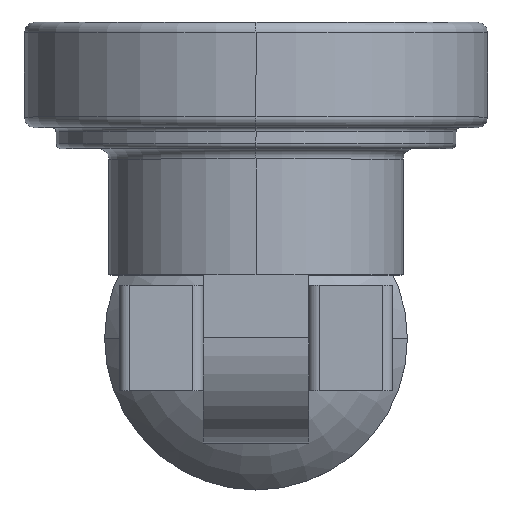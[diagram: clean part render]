
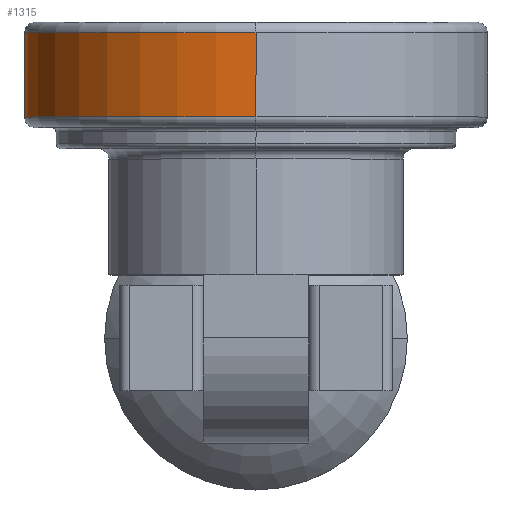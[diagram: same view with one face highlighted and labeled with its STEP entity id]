
A CAD part, top view. The second image highlights one B-rep face of the part: STEP entity #1315.
In plain terms, the highlighted cylindrical face has radius 11 mm (diameter 22 mm), a partial arc.
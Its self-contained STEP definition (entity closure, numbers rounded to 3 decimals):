
#501 = VERTEX_POINT( '', #1471 );
#725 = EDGE_CURVE( '', #1323, #501, #1714, .T. );
#799 = EDGE_CURVE( '', #959, #501, #1800, .T. );
#959 = VERTEX_POINT( '', #1979 );
#993 = VERTEX_POINT( '', #2016 );
#1109 = EDGE_CURVE( '', #959, #993, #2144, .T. );
#1253 = EDGE_CURVE( '', #993, #1323, #2302, .T. );
#1315 = ADVANCED_FACE( '', ( #2373 ), #2374, .T. );
#1323 = VERTEX_POINT( '', #2383 );
#1471 = CARTESIAN_POINT( '', ( 0., -4.5, 11. ) );
#1714 = LINE( '', #2868, #2869 );
#1800 = CIRCLE( '', #2977, 11. );
#1979 = CARTESIAN_POINT( '', ( 0., -4.5, -11. ) );
#2016 = CARTESIAN_POINT( '', ( 0., -0.5, -11. ) );
#2144 = LINE( '', #3424, #3425 );
#2302 = CIRCLE( '', #3644, 11. );
#2373 = FACE_OUTER_BOUND( '', #3728, .T. );
#2374 = CYLINDRICAL_SURFACE( '', #3729, 11. );
#2383 = CARTESIAN_POINT( '', ( 0., -0.5, 11. ) );
#2868 = CARTESIAN_POINT( '', ( 0., -2.5, 11. ) );
#2869 = VECTOR( '', #4196, 1. );
#2977 = AXIS2_PLACEMENT_3D( '', #4307, #4308, #4309 );
#3424 = CARTESIAN_POINT( '', ( 0., -2.5, -11. ) );
#3425 = VECTOR( '', #4741, 1. );
#3644 = AXIS2_PLACEMENT_3D( '', #4943, #4944, #4945 );
#3728 = EDGE_LOOP( '', ( #5038, #5039, #5040, #5041 ) );
#3729 = AXIS2_PLACEMENT_3D( '', #5042, #5043, #5044 );
#4196 = DIRECTION( '', ( 0., -1., 0. ) );
#4307 = CARTESIAN_POINT( '', ( 0., -4.5, 0. ) );
#4308 = DIRECTION( '', ( 0., 1., 0. ) );
#4309 = DIRECTION( '', ( 0., 0., -1. ) );
#4741 = DIRECTION( '', ( 0., 1., 0. ) );
#4943 = CARTESIAN_POINT( '', ( 0., -0.5, 0. ) );
#4944 = DIRECTION( '', ( 0., 1., 0. ) );
#4945 = DIRECTION( '', ( 0., 0., -1. ) );
#5038 = ORIENTED_EDGE( '', *, *, #1109, .F. );
#5039 = ORIENTED_EDGE( '', *, *, #799, .T. );
#5040 = ORIENTED_EDGE( '', *, *, #725, .F. );
#5041 = ORIENTED_EDGE( '', *, *, #1253, .F. );
#5042 = CARTESIAN_POINT( '', ( 0., -2.5, 0. ) );
#5043 = DIRECTION( '', ( 0., -1., 0. ) );
#5044 = DIRECTION( '', ( 0., 0., -1. ) );
